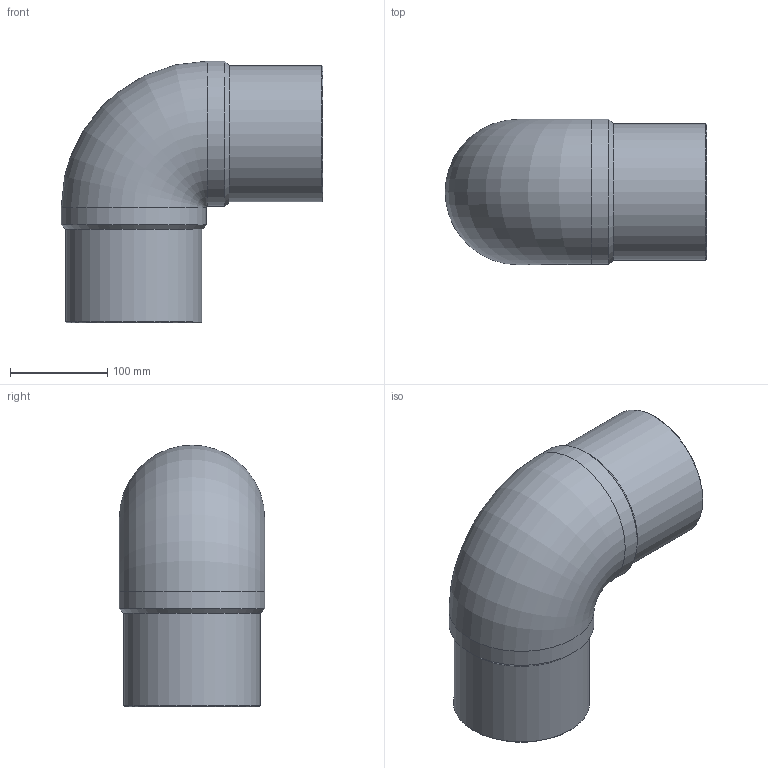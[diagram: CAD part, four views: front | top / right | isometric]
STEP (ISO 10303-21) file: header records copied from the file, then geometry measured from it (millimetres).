
FILE_DESCRIPTION(/* description */ ('Unknown'),/* implementation_level */ '2;1');
FILE_NAME(/* name */ 'G9P140B',/* time_stamp */ '2021-11-15T12:29:21+01:00',/* author */ ('Unknown'),/* organization */ ('Unknown'),/* preprocessor_version */ 'ST-DEVELOPER v16.7',/* originating_system */ 'Solid Edge',/* authorisation */ 'Unknown');
FILE_SCHEMA (('AUTOMOTIVE_DESIGN {1 0 10303 214 3 1 1}'));
Length unit declared in the file: millimetre
Products named in the file (1): G9P140B
Bounding box: 268.5 x 149 x 268.5 mm (x, y, z)
Volume: 1569049.5 mm3; surface area: 307178.3 mm2
Topology: 1 solids, 1 shells, 14 faces, 34 edges, 22 vertices
Faces by surface type: cylinder 6, cone 4, plane 2, torus 2
Full cylindrical faces by diameter (mm): 123.4 x2, 140 x2, 149 x2
Entity records: 376 total; most frequent: CARTESIAN_POINT 76, DIRECTION 60, ORIENTED_EDGE 38, AXIS2_PLACEMENT_3D 30, EDGE_LOOP 27, FACE_BOUND 27, EDGE_CURVE 19, VERTEX_POINT 18
